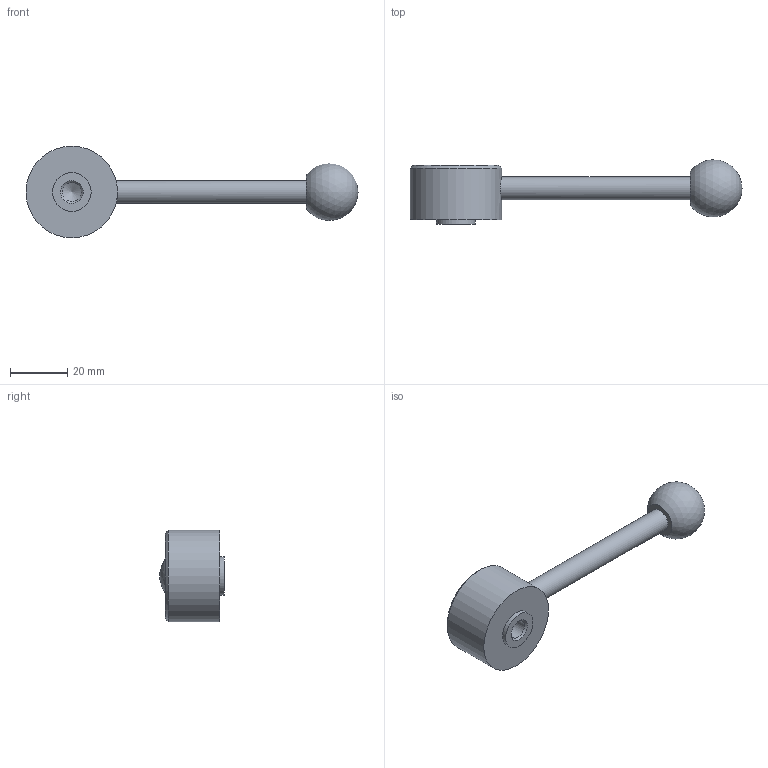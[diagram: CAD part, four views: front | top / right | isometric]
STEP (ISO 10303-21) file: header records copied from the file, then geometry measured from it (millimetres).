
FILE_DESCRIPTION( ( 'STEP AP203' ), '1' );
FILE_NAME( 'C:/Temp/Ganter_Step_05_03_2020/data/2_1/gn_125/gn_125_mb/gn_125_mb_d/Flat Adjustable Lever GN 125-32-M8-D.stp', '2020-03-05T11:00:38', ( 'License CC BY-ND 4.0' ), ( 'CADENAS' ), ' ', 'PARTsolutions', ' ' );
FILE_SCHEMA( ( 'CONFIG_CONTROL_DESIGN' ) );
Length unit declared in the file: millimetre
Products named in the file (1): _Flat Adjustable Lever GN 125-32-M8-D
Bounding box: 116 x 22.43 x 32 mm (x, y, z)
Volume: 22337.6 mm3; surface area: 6574.9 mm2
Topology: 1 solids, 1 shells, 14 faces, 25 edges, 16 vertices
Faces by surface type: cylinder 5, plane 5, cone 3, sphere 1
Full cylindrical faces by diameter (mm): 6.647 x1, 8 x1, 13.5 x1, 22 x1, 32 x1
Entity records: 388 total; most frequent: CARTESIAN_POINT 108, DIRECTION 54, AXIS2_PLACEMENT_3D 27, EDGE_LOOP 26, ORIENTED_EDGE 26, FACE_OUTER_BOUND 19, VERTEX_POINT 15, ADVANCED_FACE 14
